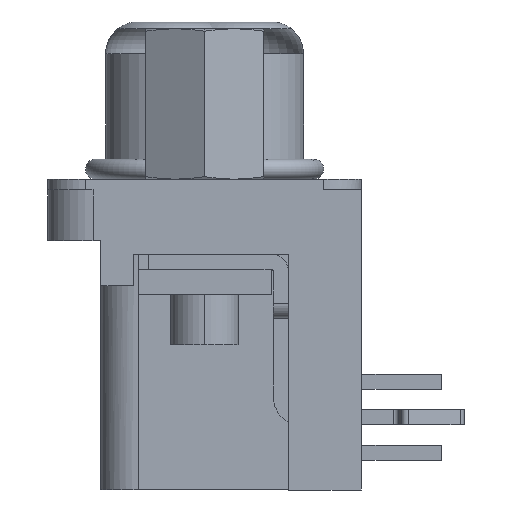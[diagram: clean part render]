
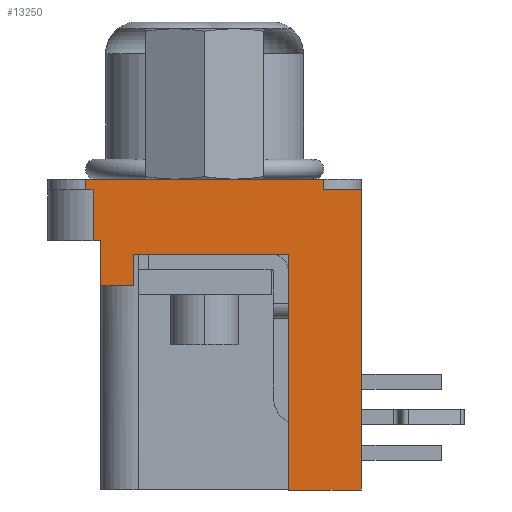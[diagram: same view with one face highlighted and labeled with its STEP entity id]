
A CAD part, left-side view. The second image highlights one B-rep face of the part: STEP entity #13250.
In plain terms, the highlighted planar face has unit normal (-1, 0, 0).
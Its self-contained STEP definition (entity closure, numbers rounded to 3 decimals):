
#273 = AXIS2_PLACEMENT_3D ( 'NONE', #275, #331, #330 ) ;
#274 = PLANE ( 'NONE',  #273 ) ;
#275 = CARTESIAN_POINT ( 'NONE',  ( -15.4, 11.22, -12.648 ) ) ;
#276 = FACE_OUTER_BOUND ( 'NONE', #13251, .T. ) ;
#277 = DIRECTION ( 'NONE',  ( 0., 0., -1. ) ) ;
#278 = VECTOR ( 'NONE', #277, 1000. ) ;
#279 = CARTESIAN_POINT ( 'NONE',  ( -15.4, 11., -6.2 ) ) ;
#280 = LINE ( 'NONE', #279, #278 ) ;
#285 = CARTESIAN_POINT ( 'NONE',  ( -15.4, 11., 0. ) ) ;
#326 = CARTESIAN_POINT ( 'NONE',  ( -15.4, 1.5, 0. ) ) ;
#327 = DIRECTION ( 'NONE',  ( 0., -1., 0. ) ) ;
#328 = VECTOR ( 'NONE', #327, 1000. ) ;
#329 = CARTESIAN_POINT ( 'NONE',  ( -15.4, 6.25, 0. ) ) ;
#330 = DIRECTION ( 'NONE',  ( 0., -1., 0. ) ) ;
#331 = DIRECTION ( 'NONE',  ( -1., 0., 0. ) ) ;
#332 = LINE ( 'NONE', #329, #328 ) ;
#366 = DIRECTION ( 'NONE',  ( 0., 0., 1. ) ) ;
#367 = VECTOR ( 'NONE', #366, 1000. ) ;
#368 = CARTESIAN_POINT ( 'NONE',  ( -15.4, 1.5, -0.215 ) ) ;
#369 = LINE ( 'NONE', #368, #367 ) ;
#370 = DIRECTION ( 'NONE',  ( 0., 0., -1. ) ) ;
#371 = VECTOR ( 'NONE', #370, 1000. ) ;
#372 = CARTESIAN_POINT ( 'NONE',  ( -15.4, 0., -6.2 ) ) ;
#373 = LINE ( 'NONE', #372, #371 ) ;
#7949 = CARTESIAN_POINT ( 'NONE',  ( -15.4, 9.08, -2.99 ) ) ;
#7950 = DIRECTION ( 'NONE',  ( 0., 0., 1. ) ) ;
#7951 = VECTOR ( 'NONE', #7950, 1000. ) ;
#7952 = CARTESIAN_POINT ( 'NONE',  ( -15.4, 9.08, -6.2 ) ) ;
#7953 = LINE ( 'NONE', #7952, #7951 ) ;
#7993 = CARTESIAN_POINT ( 'NONE',  ( -15.4, 9.08, -4.25 ) ) ;
#7994 = CARTESIAN_POINT ( 'NONE',  ( -15.4, 10.39, -4.25 ) ) ;
#7995 = DIRECTION ( 'NONE',  ( 0., -1., 0. ) ) ;
#7996 = VECTOR ( 'NONE', #7995, 1000. ) ;
#7997 = CARTESIAN_POINT ( 'NONE',  ( -15.4, 5.5, -4.25 ) ) ;
#7998 = LINE ( 'NONE', #7997, #7996 ) ;
#8061 = DIRECTION ( 'NONE',  ( 0., 0., -1. ) ) ;
#8062 = VECTOR ( 'NONE', #8061, 1000. ) ;
#8063 = CARTESIAN_POINT ( 'NONE',  ( -15.4, 2.9, -6.2 ) ) ;
#8064 = LINE ( 'NONE', #8063, #8062 ) ;
#8065 = CARTESIAN_POINT ( 'NONE',  ( -15.4, 2.9, -12.4 ) ) ;
#8092 = CARTESIAN_POINT ( 'NONE',  ( -15.4, 2.9, -2.99 ) ) ;
#8110 = DIRECTION ( 'NONE',  ( 0., -1., 0. ) ) ;
#8111 = VECTOR ( 'NONE', #8110, 1000. ) ;
#8112 = CARTESIAN_POINT ( 'NONE',  ( -15.4, 5.5, -2.99 ) ) ;
#8113 = LINE ( 'NONE', #8112, #8111 ) ;
#10146 = CARTESIAN_POINT ( 'NONE',  ( -15.4, 1.5, -0.43 ) ) ;
#10147 = CARTESIAN_POINT ( 'NONE',  ( -15.4, 0., -0.43 ) ) ;
#10148 = DIRECTION ( 'NONE',  ( 0., 1., 0. ) ) ;
#10149 = VECTOR ( 'NONE', #10148, 1000. ) ;
#10150 = CARTESIAN_POINT ( 'NONE',  ( -15.4, 5.5, -0.43 ) ) ;
#10151 = LINE ( 'NONE', #10150, #10149 ) ;
#10245 = DIRECTION ( 'NONE',  ( 0., -1., 0. ) ) ;
#10246 = VECTOR ( 'NONE', #10245, 1000. ) ;
#10247 = CARTESIAN_POINT ( 'NONE',  ( -15.4, 5.5, -12.4 ) ) ;
#10248 = LINE ( 'NONE', #10247, #10246 ) ;
#10251 = CARTESIAN_POINT ( 'NONE',  ( -15.4, 0., -12.4 ) ) ;
#10289 = CARTESIAN_POINT ( 'NONE',  ( -15.4, 10.39, -2.45 ) ) ;
#10355 = CARTESIAN_POINT ( 'NONE',  ( -15.4, 10.7, -2.45 ) ) ;
#10356 = DIRECTION ( 'NONE',  ( 0., -1., 0. ) ) ;
#10357 = VECTOR ( 'NONE', #10356, 1000. ) ;
#10358 = CARTESIAN_POINT ( 'NONE',  ( -15.4, 5.5, -2.45 ) ) ;
#10362 = LINE ( 'NONE', #10358, #10357 ) ;
#10381 = DIRECTION ( 'NONE',  ( 0., 0., -1. ) ) ;
#10382 = VECTOR ( 'NONE', #10381, 1000. ) ;
#10383 = CARTESIAN_POINT ( 'NONE',  ( -15.4, 10.39, -6.2 ) ) ;
#10384 = LINE ( 'NONE', #10383, #10382 ) ;
#10433 = LINE ( 'NONE', #10482, #10481 ) ;
#10463 = CARTESIAN_POINT ( 'NONE',  ( -15.4, 11., -0.43 ) ) ;
#10464 = DIRECTION ( 'NONE',  ( 0., -1., 0. ) ) ;
#10465 = VECTOR ( 'NONE', #10464, 1000. ) ;
#10466 = CARTESIAN_POINT ( 'NONE',  ( -15.4, 5.5, -0.43 ) ) ;
#10467 = LINE ( 'NONE', #10466, #10465 ) ;
#10479 = CARTESIAN_POINT ( 'NONE',  ( -15.4, 10.7, -0.43 ) ) ;
#10480 = DIRECTION ( 'NONE',  ( 0., 0., -1. ) ) ;
#10481 = VECTOR ( 'NONE', #10480, 1000. ) ;
#10482 = CARTESIAN_POINT ( 'NONE',  ( -15.4, 10.7, -6.2 ) ) ;
#11986 = EDGE_CURVE ( 'NONE', #12004, #11987, #7953, .T. ) ;
#11987 = VERTEX_POINT ( 'NONE', #7949 ) ;
#12002 = EDGE_CURVE ( 'NONE', #12003, #12004, #7998, .T. ) ;
#12003 = VERTEX_POINT ( 'NONE', #7994 ) ;
#12004 = VERTEX_POINT ( 'NONE', #7993 ) ;
#12036 = VERTEX_POINT ( 'NONE', #8065 ) ;
#12038 = EDGE_CURVE ( 'NONE', #12061, #12036, #8064, .T. ) ;
#12042 = EDGE_CURVE ( 'NONE', #11987, #12061, #8113, .T. ) ;
#12061 = VERTEX_POINT ( 'NONE', #8092 ) ;
#12854 = EDGE_CURVE ( 'NONE', #12855, #12856, #10151, .T. ) ;
#12855 = VERTEX_POINT ( 'NONE', #10147 ) ;
#12856 = VERTEX_POINT ( 'NONE', #10146 ) ;
#12967 = VERTEX_POINT ( 'NONE', #10251 ) ;
#12969 = EDGE_CURVE ( 'NONE', #12036, #12967, #10248, .T. ) ;
#12989 = VERTEX_POINT ( 'NONE', #10289 ) ;
#13030 = EDGE_CURVE ( 'NONE', #13031, #12989, #10362, .T. ) ;
#13031 = VERTEX_POINT ( 'NONE', #10355 ) ;
#13050 = EDGE_CURVE ( 'NONE', #12989, #12003, #10384, .T. ) ;
#13077 = EDGE_CURVE ( 'NONE', #13078, #13031, #10433, .T. ) ;
#13078 = VERTEX_POINT ( 'NONE', #10479 ) ;
#13085 = EDGE_CURVE ( 'NONE', #13086, #13078, #10467, .T. ) ;
#13086 = VERTEX_POINT ( 'NONE', #10463 ) ;
#13231 = ORIENTED_EDGE ( 'NONE', *, *, #13249, .T. ) ;
#13232 = ORIENTED_EDGE ( 'NONE', *, *, #13085, .T. ) ;
#13233 = ORIENTED_EDGE ( 'NONE', *, *, #13077, .T. ) ;
#13234 = ORIENTED_EDGE ( 'NONE', *, *, #13030, .T. ) ;
#13235 = ORIENTED_EDGE ( 'NONE', *, *, #13050, .T. ) ;
#13236 = ORIENTED_EDGE ( 'NONE', *, *, #12002, .T. ) ;
#13237 = ORIENTED_EDGE ( 'NONE', *, *, #11986, .T. ) ;
#13238 = ORIENTED_EDGE ( 'NONE', *, *, #12042, .T. ) ;
#13239 = ORIENTED_EDGE ( 'NONE', *, *, #12038, .T. ) ;
#13240 = ORIENTED_EDGE ( 'NONE', *, *, #12969, .T. ) ;
#13244 = VERTEX_POINT ( 'NONE', #285 ) ;
#13249 = EDGE_CURVE ( 'NONE', #13244, #13086, #280, .T. ) ;
#13250 = ADVANCED_FACE ( 'NONE', ( #276 ), #274, .T. ) ;
#13251 = EDGE_LOOP ( 'NONE', ( #13252, #13231, #13232, #13233, #13234, #13235, #13236, #13237, #13238, #13239, #13240, #13305, #13307, #13308 ) ) ;
#13252 = ORIENTED_EDGE ( 'NONE', *, *, #13253, .F. ) ;
#13253 = EDGE_CURVE ( 'NONE', #13244, #13254, #332, .T. ) ;
#13254 = VERTEX_POINT ( 'NONE', #326 ) ;
#13305 = ORIENTED_EDGE ( 'NONE', *, *, #13306, .F. ) ;
#13306 = EDGE_CURVE ( 'NONE', #12855, #12967, #373, .T. ) ;
#13307 = ORIENTED_EDGE ( 'NONE', *, *, #12854, .T. ) ;
#13308 = ORIENTED_EDGE ( 'NONE', *, *, #13309, .T. ) ;
#13309 = EDGE_CURVE ( 'NONE', #12856, #13254, #369, .T. ) ;
